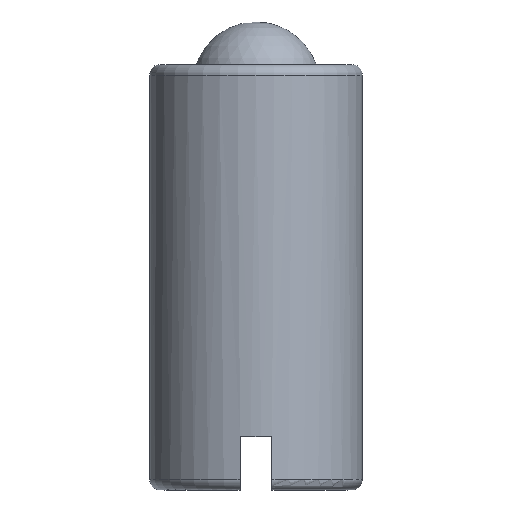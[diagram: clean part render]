
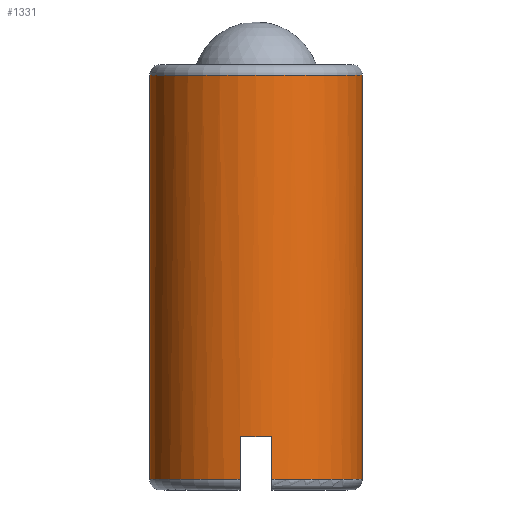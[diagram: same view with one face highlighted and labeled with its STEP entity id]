
A CAD part, front view. The second image highlights one B-rep face of the part: STEP entity #1331.
In plain terms, the highlighted cylindrical face has radius 5 mm (diameter 10 mm), a partial arc.
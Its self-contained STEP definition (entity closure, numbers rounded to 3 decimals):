
#26 = DIRECTION ( 'NONE',  ( 0., 0., -1. ) ) ;
#61 = CIRCLE ( 'NONE', #793, 5. ) ;
#145 = CYLINDRICAL_SURFACE ( 'NONE', #991, 5. ) ;
#146 = DIRECTION ( 'NONE',  ( -1., 0., 0. ) ) ;
#149 = AXIS2_PLACEMENT_3D ( 'NONE', #625, #551, #545 ) ;
#175 = EDGE_CURVE ( 'NONE', #506, #992, #246, .T. ) ;
#176 = VECTOR ( 'NONE', #775, 1000. ) ;
#189 = VECTOR ( 'NONE', #527, 1000. ) ;
#224 = CARTESIAN_POINT ( 'NONE',  ( 0.75, -4.943, -19.5 ) ) ;
#232 = LINE ( 'NONE', #751, #900 ) ;
#242 = AXIS2_PLACEMENT_3D ( 'NONE', #444, #1239, #1135 ) ;
#246 = LINE ( 'NONE', #1097, #176 ) ;
#255 = DIRECTION ( 'NONE',  ( 0., 0., -1. ) ) ;
#258 = CIRCLE ( 'NONE', #149, 5. ) ;
#293 = VECTOR ( 'NONE', #1178, 1000. ) ;
#303 = EDGE_CURVE ( 'NONE', #692, #1234, #258, .T. ) ;
#317 = CARTESIAN_POINT ( 'NONE',  ( -0.75, -4.943, -17.5 ) ) ;
#348 = CARTESIAN_POINT ( 'NONE',  ( 0., 0., -11. ) ) ;
#370 = CARTESIAN_POINT ( 'NONE',  ( 0., 0., -17.5 ) ) ;
#426 = EDGE_CURVE ( 'NONE', #506, #724, #1007, .T. ) ;
#444 = CARTESIAN_POINT ( 'NONE',  ( 0., 0., -0.5 ) ) ;
#459 = EDGE_CURVE ( 'NONE', #651, #692, #481, .T. ) ;
#481 = LINE ( 'NONE', #791, #293 ) ;
#505 = ORIENTED_EDGE ( 'NONE', *, *, #617, .F. ) ;
#506 = VERTEX_POINT ( 'NONE', #1167 ) ;
#527 = DIRECTION ( 'NONE',  ( 0., 0., 1. ) ) ;
#545 = DIRECTION ( 'NONE',  ( -1., 0., 0. ) ) ;
#551 = DIRECTION ( 'NONE',  ( 0., 0., -1. ) ) ;
#570 = FACE_OUTER_BOUND ( 'NONE', #1034, .T. ) ;
#597 = EDGE_CURVE ( 'NONE', #690, #651, #1180, .T. ) ;
#598 = CARTESIAN_POINT ( 'NONE',  ( 0.75, -4.943, -11. ) ) ;
#617 = EDGE_CURVE ( 'NONE', #1301, #690, #1087, .T. ) ;
#625 = CARTESIAN_POINT ( 'NONE',  ( 0., 0., -19.5 ) ) ;
#634 = EDGE_CURVE ( 'NONE', #992, #1301, #61, .T. ) ;
#651 = VERTEX_POINT ( 'NONE', #317 ) ;
#654 = ORIENTED_EDGE ( 'NONE', *, *, #426, .T. ) ;
#666 = DIRECTION ( 'NONE',  ( 0., 0., -1. ) ) ;
#677 = ORIENTED_EDGE ( 'NONE', *, *, #459, .F. ) ;
#690 = VERTEX_POINT ( 'NONE', #922 ) ;
#692 = VERTEX_POINT ( 'NONE', #842 ) ;
#724 = VERTEX_POINT ( 'NONE', #950 ) ;
#751 = CARTESIAN_POINT ( 'NONE',  ( -5., 0., -11. ) ) ;
#775 = DIRECTION ( 'NONE',  ( 0., 0., -1. ) ) ;
#791 = CARTESIAN_POINT ( 'NONE',  ( -0.75, -4.943, -11. ) ) ;
#793 = AXIS2_PLACEMENT_3D ( 'NONE', #1024, #924, #1019 ) ;
#812 = ORIENTED_EDGE ( 'NONE', *, *, #1126, .T. ) ;
#838 = CARTESIAN_POINT ( 'NONE',  ( 5., 0., -19.5 ) ) ;
#842 = CARTESIAN_POINT ( 'NONE',  ( -0.75, -4.943, -19.5 ) ) ;
#846 = ORIENTED_EDGE ( 'NONE', *, *, #175, .F. ) ;
#900 = VECTOR ( 'NONE', #26, 1000. ) ;
#922 = CARTESIAN_POINT ( 'NONE',  ( 0.75, -4.943, -17.5 ) ) ;
#924 = DIRECTION ( 'NONE',  ( 0., 0., -1. ) ) ;
#938 = ORIENTED_EDGE ( 'NONE', *, *, #634, .F. ) ;
#947 = AXIS2_PLACEMENT_3D ( 'NONE', #370, #255, #146 ) ;
#950 = CARTESIAN_POINT ( 'NONE',  ( -5., 0., -0.5 ) ) ;
#991 = AXIS2_PLACEMENT_3D ( 'NONE', #348, #666, #1055 ) ;
#992 = VERTEX_POINT ( 'NONE', #838 ) ;
#1000 = ORIENTED_EDGE ( 'NONE', *, *, #597, .F. ) ;
#1007 = CIRCLE ( 'NONE', #242, 5. ) ;
#1019 = DIRECTION ( 'NONE',  ( -1., 0., 0. ) ) ;
#1024 = CARTESIAN_POINT ( 'NONE',  ( 0., 0., -19.5 ) ) ;
#1034 = EDGE_LOOP ( 'NONE', ( #846, #654, #812, #1276, #677, #1000, #505, #938 ) ) ;
#1055 = DIRECTION ( 'NONE',  ( -1., 0., 0. ) ) ;
#1087 = LINE ( 'NONE', #598, #189 ) ;
#1097 = CARTESIAN_POINT ( 'NONE',  ( 5., 0., -11. ) ) ;
#1123 = CARTESIAN_POINT ( 'NONE',  ( -5., 0., -19.5 ) ) ;
#1126 = EDGE_CURVE ( 'NONE', #724, #1234, #232, .T. ) ;
#1135 = DIRECTION ( 'NONE',  ( -1., 0., 0. ) ) ;
#1167 = CARTESIAN_POINT ( 'NONE',  ( 5., 0., -0.5 ) ) ;
#1178 = DIRECTION ( 'NONE',  ( 0., 0., -1. ) ) ;
#1180 = CIRCLE ( 'NONE', #947, 5. ) ;
#1234 = VERTEX_POINT ( 'NONE', #1123 ) ;
#1239 = DIRECTION ( 'NONE',  ( 0., 0., -1. ) ) ;
#1276 = ORIENTED_EDGE ( 'NONE', *, *, #303, .F. ) ;
#1301 = VERTEX_POINT ( 'NONE', #224 ) ;
#1331 = ADVANCED_FACE ( 'NONE', ( #570 ), #145, .T. ) ;
